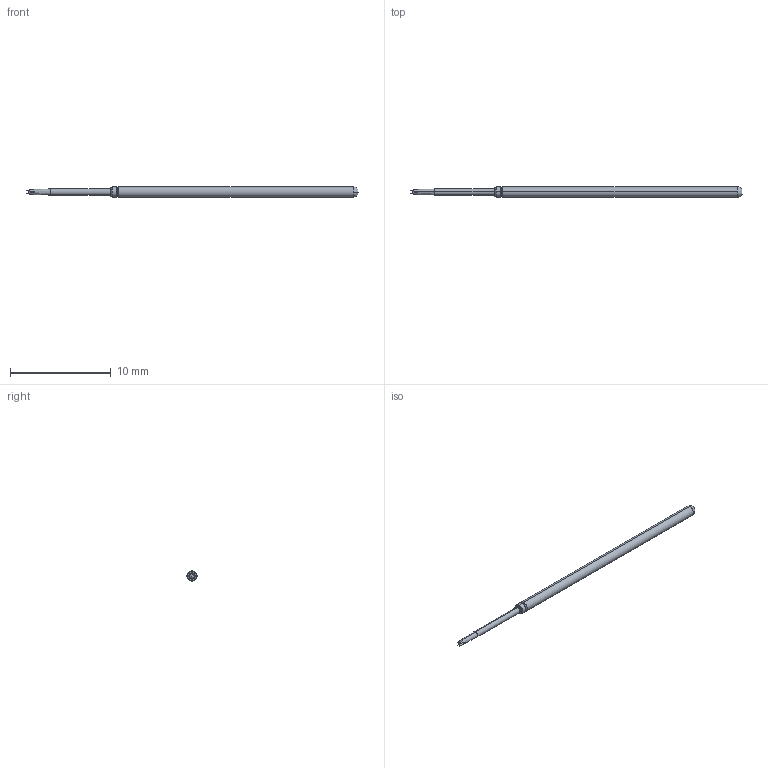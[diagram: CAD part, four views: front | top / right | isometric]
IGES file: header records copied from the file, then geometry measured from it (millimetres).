
Start section: SolidWorks IGES file using analytic representation for surfaces
Global section: file name: Z:\probe solid model mockups\Solidworks models\Parts\LFRE-1L18.IGS; native system: SolidWorks 2016; preprocessor: SolidWorks 2016; author: mlee; date: 180927.163603; units: inch
Bounding box: 33.02 x 1.02 x 1.02 mm (x, y, z)
Surface area: 94.9 mm2 (no closed solid volume)
Topology: 0 solids, 0 shells, 28 faces, 178 edges, 178 vertices
Faces by surface type: bspline 14, revolution 14
